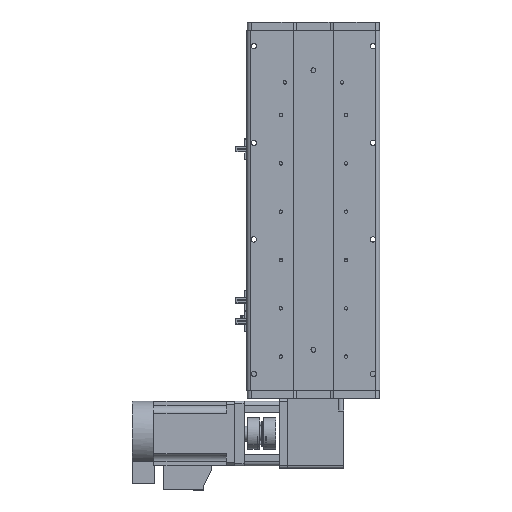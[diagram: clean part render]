
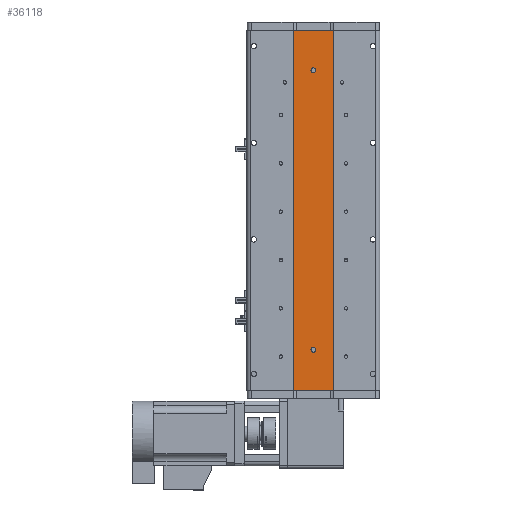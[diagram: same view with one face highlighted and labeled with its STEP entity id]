
A CAD part, front view. The second image highlights one B-rep face of the part: STEP entity #36118.
In plain terms, the highlighted planar face has unit normal (0, -1, 0).
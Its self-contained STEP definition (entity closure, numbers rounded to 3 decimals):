
#771 = ORIENTED_EDGE ( 'NONE', *, *, #20058, .T. ) ;
#859 = CARTESIAN_POINT ( 'NONE',  ( 25., 1., 223.5 ) ) ;
#1277 = LINE ( 'NONE', #859, #25234 ) ;
#1721 = ORIENTED_EDGE ( 'NONE', *, *, #17668, .F. ) ;
#1743 = CARTESIAN_POINT ( 'NONE',  ( 0., 1., -173.5 ) ) ;
#1826 = EDGE_LOOP ( 'NONE', ( #14945, #18534 ) ) ;
#3362 = DIRECTION ( 'NONE',  ( 0., 0., 1. ) ) ;
#4277 = ORIENTED_EDGE ( 'NONE', *, *, #37433, .T. ) ;
#5024 = EDGE_CURVE ( 'NONE', #22785, #5141, #42450, .T. ) ;
#5141 = VERTEX_POINT ( 'NONE', #17169 ) ;
#5168 = DIRECTION ( 'NONE',  ( 0., 0., 1. ) ) ;
#5420 = CARTESIAN_POINT ( 'NONE',  ( 25., 1., 223.5 ) ) ;
#6204 = VERTEX_POINT ( 'NONE', #16768 ) ;
#6212 = VECTOR ( 'NONE', #30164, 1000. ) ;
#6626 = CARTESIAN_POINT ( 'NONE',  ( 0., 1., -176.5 ) ) ;
#6845 = AXIS2_PLACEMENT_3D ( 'NONE', #5420, #8837, #32667 ) ;
#7259 = CARTESIAN_POINT ( 'NONE',  ( 25., 1., -223.5 ) ) ;
#7551 = VERTEX_POINT ( 'NONE', #11102 ) ;
#7770 = DIRECTION ( 'NONE',  ( 0., 1., 0. ) ) ;
#8155 = EDGE_LOOP ( 'NONE', ( #4277, #771 ) ) ;
#8818 = LINE ( 'NONE', #32479, #44012 ) ;
#8837 = DIRECTION ( 'NONE',  ( 0., 1., 0. ) ) ;
#8945 = VERTEX_POINT ( 'NONE', #7259 ) ;
#11102 = CARTESIAN_POINT ( 'NONE',  ( 0., 1., 176.5 ) ) ;
#13188 = EDGE_CURVE ( 'NONE', #31881, #19671, #20907, .T. ) ;
#13261 = CIRCLE ( 'NONE', #44061, 3. ) ;
#14887 = ORIENTED_EDGE ( 'NONE', *, *, #38478, .F. ) ;
#14945 = ORIENTED_EDGE ( 'NONE', *, *, #33937, .T. ) ;
#16739 = AXIS2_PLACEMENT_3D ( 'NONE', #1743, #25537, #5168 ) ;
#16768 = CARTESIAN_POINT ( 'NONE',  ( 0., 1., 170.5 ) ) ;
#17169 = CARTESIAN_POINT ( 'NONE',  ( -25., 1., -223.5 ) ) ;
#17478 = DIRECTION ( 'NONE',  ( 1., 0., 0. ) ) ;
#17668 = EDGE_CURVE ( 'NONE', #22785, #39911, #8818, .T. ) ;
#17790 = DIRECTION ( 'NONE',  ( 0., 0., -1. ) ) ;
#18474 = FACE_BOUND ( 'NONE', #8155, .T. ) ;
#18534 = ORIENTED_EDGE ( 'NONE', *, *, #13188, .T. ) ;
#18937 = CIRCLE ( 'NONE', #23087, 3. ) ;
#19349 = DIRECTION ( 'NONE',  ( 0., 1., 0. ) ) ;
#19671 = VERTEX_POINT ( 'NONE', #6626 ) ;
#20058 = EDGE_CURVE ( 'NONE', #7551, #6204, #13261, .T. ) ;
#20215 = CARTESIAN_POINT ( 'NONE',  ( 25., 1., 223.5 ) ) ;
#20907 = CIRCLE ( 'NONE', #31640, 3. ) ;
#22140 = ORIENTED_EDGE ( 'NONE', *, *, #5024, .T. ) ;
#22679 = ORIENTED_EDGE ( 'NONE', *, *, #41878, .T. ) ;
#22785 = VERTEX_POINT ( 'NONE', #26882 ) ;
#23087 = AXIS2_PLACEMENT_3D ( 'NONE', #44199, #23722, #3362 ) ;
#23722 = DIRECTION ( 'NONE',  ( 0., 1., 0. ) ) ;
#23975 = VECTOR ( 'NONE', #17478, 1000. ) ;
#25234 = VECTOR ( 'NONE', #17790, 1000. ) ;
#25426 = FACE_BOUND ( 'NONE', #1826, .T. ) ;
#25537 = DIRECTION ( 'NONE',  ( 0., 1., 0. ) ) ;
#26882 = CARTESIAN_POINT ( 'NONE',  ( -25., 1., 223.5 ) ) ;
#27949 = CIRCLE ( 'NONE', #16739, 3. ) ;
#28162 = CARTESIAN_POINT ( 'NONE',  ( 0., 1., -173.5 ) ) ;
#30164 = DIRECTION ( 'NONE',  ( 0., 0., -1. ) ) ;
#31613 = DIRECTION ( 'NONE',  ( 0., 0., 1. ) ) ;
#31640 = AXIS2_PLACEMENT_3D ( 'NONE', #28162, #7770, #31613 ) ;
#31881 = VERTEX_POINT ( 'NONE', #42195 ) ;
#32369 = EDGE_LOOP ( 'NONE', ( #22679, #14887, #1721, #22140 ) ) ;
#32479 = CARTESIAN_POINT ( 'NONE',  ( 25., 1., 223.5 ) ) ;
#32667 = DIRECTION ( 'NONE',  ( 0., 0., 1. ) ) ;
#33937 = EDGE_CURVE ( 'NONE', #19671, #31881, #27949, .T. ) ;
#34529 = CARTESIAN_POINT ( 'NONE',  ( 25., 1., -223.5 ) ) ;
#36118 = ADVANCED_FACE ( 'NONE', ( #25426, #18474, #43594 ), #42789, .F. ) ;
#37433 = EDGE_CURVE ( 'NONE', #6204, #7551, #18937, .T. ) ;
#38478 = EDGE_CURVE ( 'NONE', #39911, #8945, #1277, .T. ) ;
#39796 = CARTESIAN_POINT ( 'NONE',  ( 0., 1., 173.5 ) ) ;
#39911 = VERTEX_POINT ( 'NONE', #20215 ) ;
#41878 = EDGE_CURVE ( 'NONE', #5141, #8945, #42134, .T. ) ;
#42134 = LINE ( 'NONE', #34529, #23975 ) ;
#42195 = CARTESIAN_POINT ( 'NONE',  ( 0., 1., -170.5 ) ) ;
#42450 = LINE ( 'NONE', #43738, #6212 ) ;
#42746 = DIRECTION ( 'NONE',  ( 1., 0., 0. ) ) ;
#42789 = PLANE ( 'NONE',  #6845 ) ;
#43248 = DIRECTION ( 'NONE',  ( 0., 0., 1. ) ) ;
#43594 = FACE_OUTER_BOUND ( 'NONE', #32369, .T. ) ;
#43738 = CARTESIAN_POINT ( 'NONE',  ( -25., 1., 223.5 ) ) ;
#44012 = VECTOR ( 'NONE', #42746, 1000. ) ;
#44061 = AXIS2_PLACEMENT_3D ( 'NONE', #39796, #19349, #43248 ) ;
#44199 = CARTESIAN_POINT ( 'NONE',  ( 0., 1., 173.5 ) ) ;
